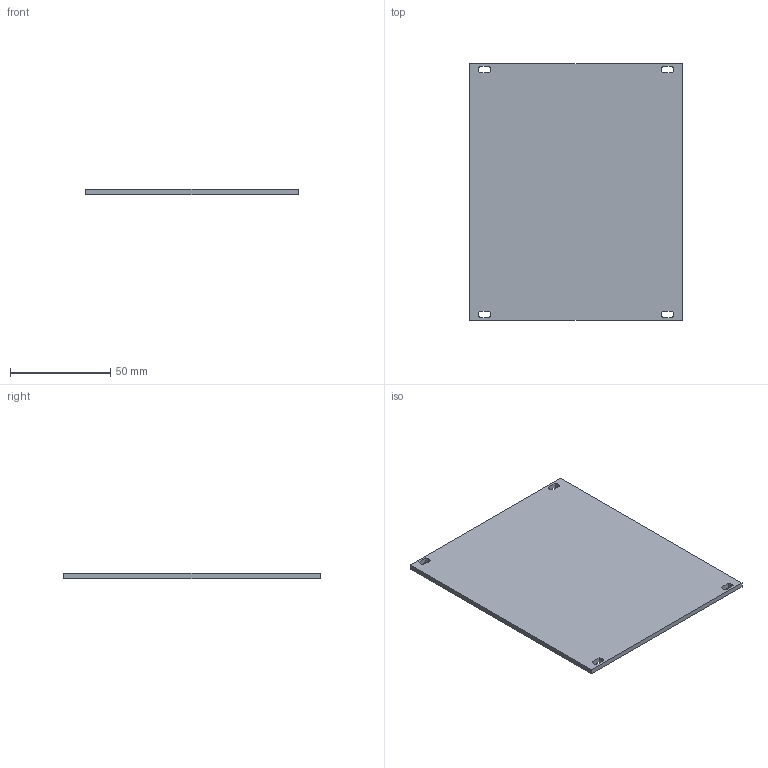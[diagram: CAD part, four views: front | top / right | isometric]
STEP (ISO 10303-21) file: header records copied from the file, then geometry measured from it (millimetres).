
FILE_DESCRIPTION(('STEP AP214'),'1');
FILE_NAME('30807487.stp','2019-03-12T17:59:07',('TraceParts'),('TraceParts S.A.'),'Spatial InterOp 3D',' ',' ');
FILE_SCHEMA(('automotive_design'));
Length unit declared in the file: millimetre
Products named in the file (1): 30807487
Bounding box: 106.34 x 128.4 x 2.5 mm (x, y, z)
Volume: 33951.1 mm3; surface area: 28502.5 mm2
Topology: 1 solids, 1 shells, 30 faces, 84 edges, 56 vertices
Faces by surface type: cylinder 16, plane 14
Entity records: 1252 total; most frequent: DIRECTION 178, CARTESIAN_POINT 171, ORIENTED_EDGE 168, EDGE_CURVE 84, AXIS2_PLACEMENT_3D 63, VERTEX_POINT 56, LINE 52, VECTOR 52
